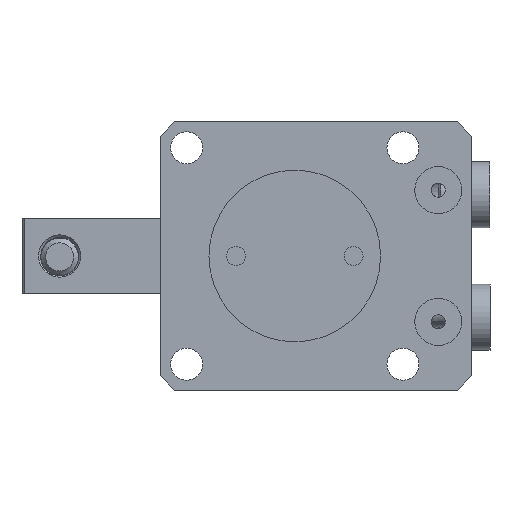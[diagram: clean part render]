
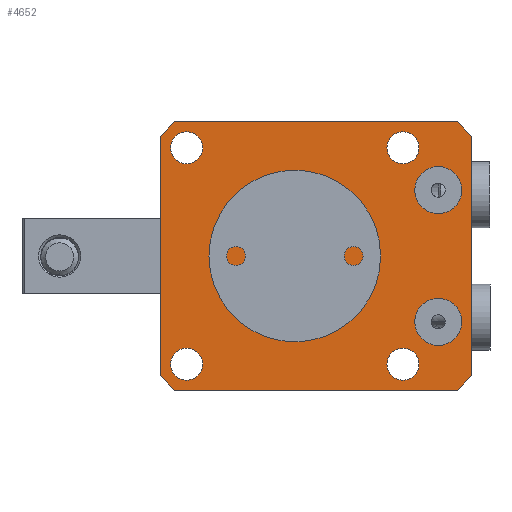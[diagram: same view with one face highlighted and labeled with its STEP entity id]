
A CAD part, front view. The second image highlights one B-rep face of the part: STEP entity #4652.
In plain terms, the highlighted planar face has unit normal (0, -1, 0).
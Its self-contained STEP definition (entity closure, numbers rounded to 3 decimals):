
#211=PLANE('',#5272);
#369=FACE_BOUND('',#836,.T.);
#370=FACE_BOUND('',#837,.T.);
#371=FACE_BOUND('',#838,.T.);
#372=FACE_BOUND('',#839,.T.);
#373=FACE_BOUND('',#840,.T.);
#374=FACE_BOUND('',#841,.T.);
#541=FACE_OUTER_BOUND('',#835,.T.);
#835=EDGE_LOOP('',(#3460,#3461,#3462,#3463,#3464,#3465,#3466,#3467));
#836=EDGE_LOOP('',(#3468));
#837=EDGE_LOOP('',(#3469));
#838=EDGE_LOOP('',(#3470));
#839=EDGE_LOOP('',(#3471));
#840=EDGE_LOOP('',(#3472));
#841=EDGE_LOOP('',(#3473));
#1177=LINE('',#7566,#1531);
#1192=LINE('',#7599,#1546);
#1194=LINE('',#7603,#1548);
#1196=LINE('',#7607,#1550);
#1198=LINE('',#7610,#1552);
#1216=LINE('',#7648,#1570);
#1223=LINE('',#7663,#1577);
#1225=LINE('',#7668,#1579);
#1531=VECTOR('',#5947,1000.);
#1546=VECTOR('',#5978,1000.);
#1548=VECTOR('',#5982,1000.);
#1550=VECTOR('',#5986,1000.);
#1552=VECTOR('',#5990,1000.);
#1570=VECTOR('',#6024,1000.);
#1577=VECTOR('',#6043,1000.);
#1579=VECTOR('',#6051,1000.);
#1843=CIRCLE('',#5204,3.4);
#1844=CIRCLE('',#5206,3.4);
#1845=CIRCLE('',#5208,3.4);
#1847=CIRCLE('',#5211,3.4);
#1850=CIRCLE('',#5215,5.);
#1852=CIRCLE('',#5218,5.);
#2089=VERTEX_POINT('',#7383);
#2090=VERTEX_POINT('',#7387);
#2091=VERTEX_POINT('',#7391);
#2093=VERTEX_POINT('',#7397);
#2096=VERTEX_POINT('',#7405);
#2098=VERTEX_POINT('',#7411);
#2141=VERTEX_POINT('',#7563);
#2142=VERTEX_POINT('',#7565);
#2151=VERTEX_POINT('',#7596);
#2152=VERTEX_POINT('',#7598);
#2153=VERTEX_POINT('',#7602);
#2154=VERTEX_POINT('',#7606);
#2165=VERTEX_POINT('',#7645);
#2166=VERTEX_POINT('',#7647);
#2538=EDGE_CURVE('',#2089,#2089,#1843,.T.);
#2540=EDGE_CURVE('',#2090,#2090,#1844,.T.);
#2542=EDGE_CURVE('',#2091,#2091,#1845,.T.);
#2545=EDGE_CURVE('',#2093,#2093,#1847,.T.);
#2550=EDGE_CURVE('',#2096,#2096,#1850,.T.);
#2553=EDGE_CURVE('',#2098,#2098,#1852,.T.);
#2611=EDGE_CURVE('',#2142,#2141,#1177,.T.);
#2628=EDGE_CURVE('',#2151,#2152,#1192,.T.);
#2630=EDGE_CURVE('',#2153,#2152,#1194,.T.);
#2632=EDGE_CURVE('',#2153,#2154,#1196,.T.);
#2634=EDGE_CURVE('',#2154,#2141,#1198,.T.);
#2653=EDGE_CURVE('',#2166,#2165,#1216,.T.);
#2660=EDGE_CURVE('',#2165,#2142,#1223,.T.);
#2662=EDGE_CURVE('',#2151,#2166,#1225,.T.);
#3460=ORIENTED_EDGE('',*,*,#2611,.T.);
#3461=ORIENTED_EDGE('',*,*,#2634,.F.);
#3462=ORIENTED_EDGE('',*,*,#2632,.F.);
#3463=ORIENTED_EDGE('',*,*,#2630,.T.);
#3464=ORIENTED_EDGE('',*,*,#2628,.F.);
#3465=ORIENTED_EDGE('',*,*,#2662,.T.);
#3466=ORIENTED_EDGE('',*,*,#2653,.T.);
#3467=ORIENTED_EDGE('',*,*,#2660,.T.);
#3468=ORIENTED_EDGE('',*,*,#2538,.T.);
#3469=ORIENTED_EDGE('',*,*,#2540,.T.);
#3470=ORIENTED_EDGE('',*,*,#2542,.T.);
#3471=ORIENTED_EDGE('',*,*,#2545,.T.);
#3472=ORIENTED_EDGE('',*,*,#2550,.T.);
#3473=ORIENTED_EDGE('',*,*,#2553,.T.);
#4652=ADVANCED_FACE('',(#541,#369,#370,#371,#372,#373,#374),#211,.T.);
#5204=AXIS2_PLACEMENT_3D('',#7384,#5815,#5816);
#5206=AXIS2_PLACEMENT_3D('',#7388,#5820,#5821);
#5208=AXIS2_PLACEMENT_3D('',#7392,#5825,#5826);
#5211=AXIS2_PLACEMENT_3D('',#7398,#5832,#5833);
#5215=AXIS2_PLACEMENT_3D('',#7407,#5842,#5843);
#5218=AXIS2_PLACEMENT_3D('',#7413,#5849,#5850);
#5272=AXIS2_PLACEMENT_3D('',#7667,#6049,#6050);
#5815=DIRECTION('center_axis',(0.,1.,0.));
#5816=DIRECTION('ref_axis',(0.,0.,1.));
#5820=DIRECTION('center_axis',(0.,1.,0.));
#5821=DIRECTION('ref_axis',(0.,0.,1.));
#5825=DIRECTION('center_axis',(0.,1.,0.));
#5826=DIRECTION('ref_axis',(0.,0.,1.));
#5832=DIRECTION('center_axis',(0.,1.,0.));
#5833=DIRECTION('ref_axis',(0.,0.,1.));
#5842=DIRECTION('center_axis',(0.,1.,0.));
#5843=DIRECTION('ref_axis',(0.,0.,-1.));
#5849=DIRECTION('center_axis',(0.,1.,0.));
#5850=DIRECTION('ref_axis',(0.,0.,-1.));
#5947=DIRECTION('',(1.,0.,0.));
#5978=DIRECTION('',(1.,0.,0.));
#5982=DIRECTION('',(-0.707,0.,0.707));
#5986=DIRECTION('',(0.,0.,-1.));
#5990=DIRECTION('',(-0.707,0.,-0.707));
#6024=DIRECTION('',(0.,0.,-1.));
#6043=DIRECTION('',(0.707,0.,-0.707));
#6049=DIRECTION('center_axis',(0.,-1.,0.));
#6050=DIRECTION('ref_axis',(1.,0.,0.));
#6051=DIRECTION('',(-0.707,0.,-0.707));
#7383=CARTESIAN_POINT('',(-458.049,141.613,-26.4));
#7384=CARTESIAN_POINT('Origin',(-458.049,141.613,-23.));
#7387=CARTESIAN_POINT('',(-412.049,141.613,-26.4));
#7388=CARTESIAN_POINT('Origin',(-412.049,141.613,-23.));
#7391=CARTESIAN_POINT('',(-412.049,141.613,19.6));
#7392=CARTESIAN_POINT('Origin',(-412.049,141.613,23.));
#7397=CARTESIAN_POINT('',(-458.049,141.613,19.6));
#7398=CARTESIAN_POINT('Origin',(-458.049,141.613,23.));
#7405=CARTESIAN_POINT('',(-404.549,141.613,19.));
#7407=CARTESIAN_POINT('Origin',(-404.549,141.613,14.));
#7411=CARTESIAN_POINT('',(-404.549,141.613,-9.));
#7413=CARTESIAN_POINT('Origin',(-404.549,141.613,-14.));
#7563=CARTESIAN_POINT('',(-400.549,141.613,-28.5));
#7565=CARTESIAN_POINT('',(-460.549,141.613,-28.5));
#7566=CARTESIAN_POINT('',(-430.549,141.613,-28.5));
#7596=CARTESIAN_POINT('',(-460.549,141.613,28.5));
#7598=CARTESIAN_POINT('',(-400.549,141.613,28.5));
#7599=CARTESIAN_POINT('',(-430.549,141.613,28.5));
#7602=CARTESIAN_POINT('',(-397.549,141.613,25.5));
#7603=CARTESIAN_POINT('',(-399.049,141.613,27.));
#7606=CARTESIAN_POINT('',(-397.549,141.613,-25.5));
#7607=CARTESIAN_POINT('',(-397.549,141.613,0.));
#7610=CARTESIAN_POINT('',(-399.049,141.613,-27.));
#7645=CARTESIAN_POINT('',(-463.549,141.613,-25.5));
#7647=CARTESIAN_POINT('',(-463.549,141.613,25.5));
#7648=CARTESIAN_POINT('',(-463.549,141.613,0.));
#7663=CARTESIAN_POINT('',(-462.049,141.613,-27.));
#7667=CARTESIAN_POINT('Origin',(-463.549,141.613,-28.5));
#7668=CARTESIAN_POINT('',(-460.549,141.613,28.5));
